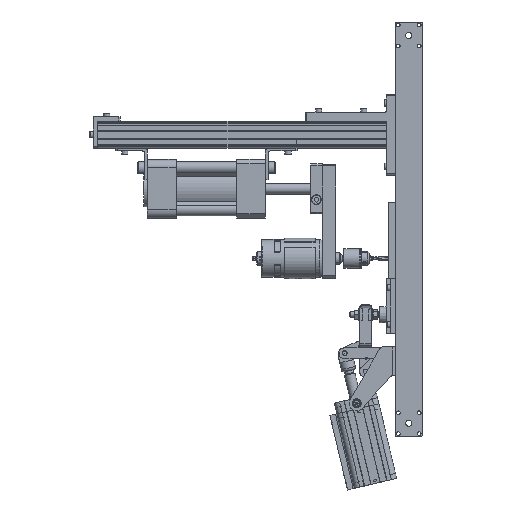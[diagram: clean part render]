
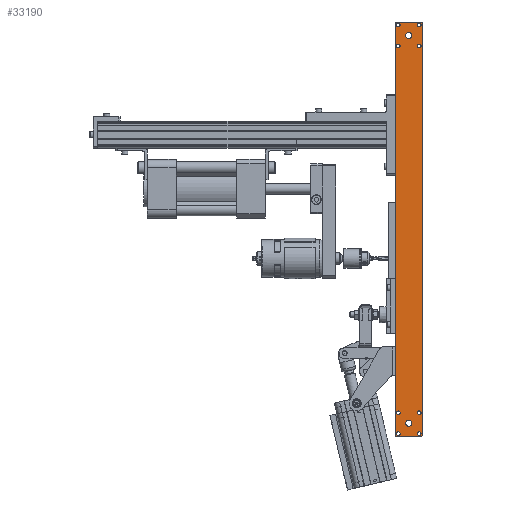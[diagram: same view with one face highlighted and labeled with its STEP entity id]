
A CAD part, left-side view. The second image highlights one B-rep face of the part: STEP entity #33190.
In plain terms, the highlighted planar face has unit normal (-1, 0, 0) as drawn and (0, 0, 1) by its records, which use the part's own axes.
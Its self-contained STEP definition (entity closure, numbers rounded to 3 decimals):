
#1741=FACE_BOUND('',#5719,.T.);
#1742=FACE_BOUND('',#5720,.T.);
#1743=FACE_BOUND('',#5721,.T.);
#1744=FACE_BOUND('',#5722,.T.);
#1745=FACE_BOUND('',#5723,.T.);
#1746=FACE_BOUND('',#5724,.T.);
#1747=FACE_BOUND('',#5725,.T.);
#1748=FACE_BOUND('',#5726,.T.);
#1749=FACE_BOUND('',#5727,.T.);
#1750=FACE_BOUND('',#5728,.T.);
#2178=CIRCLE('',#36076,2.);
#2193=CIRCLE('',#36094,2.);
#2194=CIRCLE('',#36096,2.);
#2195=CIRCLE('',#36099,2.);
#2196=CIRCLE('',#36101,2.);
#2197=CIRCLE('',#36103,2.);
#2198=CIRCLE('',#36105,3.4);
#2199=CIRCLE('',#36107,2.);
#2200=CIRCLE('',#36109,2.);
#2201=CIRCLE('',#36111,2.);
#2202=CIRCLE('',#36113,2.);
#2203=CIRCLE('',#36115,2.);
#2204=CIRCLE('',#36117,3.4);
#2205=CIRCLE('',#36119,2.);
#3788=FACE_OUTER_BOUND('',#5718,.T.);
#5718=EDGE_LOOP('',(#23239,#23240,#23241,#23242,#23243,#23244,#23245,#23246));
#5719=EDGE_LOOP('',(#23247));
#5720=EDGE_LOOP('',(#23248));
#5721=EDGE_LOOP('',(#23249));
#5722=EDGE_LOOP('',(#23250));
#5723=EDGE_LOOP('',(#23251));
#5724=EDGE_LOOP('',(#23252));
#5725=EDGE_LOOP('',(#23253));
#5726=EDGE_LOOP('',(#23254));
#5727=EDGE_LOOP('',(#23255));
#5728=EDGE_LOOP('',(#23256));
#8306=LINE('',#50582,#11349);
#8312=LINE('',#50597,#11355);
#8324=LINE('',#50643,#11367);
#8325=LINE('',#50645,#11368);
#11349=VECTOR('',#40468,10.);
#11355=VECTOR('',#40484,10.);
#11367=VECTOR('',#40542,10.);
#11368=VECTOR('',#40545,10.);
#14252=VERTEX_POINT('',#50538);
#14253=VERTEX_POINT('',#50539);
#14272=VERTEX_POINT('',#50581);
#14273=VERTEX_POINT('',#50585);
#14274=VERTEX_POINT('',#50589);
#14275=VERTEX_POINT('',#50590);
#14276=VERTEX_POINT('',#50595);
#14277=VERTEX_POINT('',#50599);
#14278=VERTEX_POINT('',#50603);
#14279=VERTEX_POINT('',#50607);
#14280=VERTEX_POINT('',#50611);
#14281=VERTEX_POINT('',#50615);
#14282=VERTEX_POINT('',#50619);
#14283=VERTEX_POINT('',#50623);
#14284=VERTEX_POINT('',#50627);
#14285=VERTEX_POINT('',#50631);
#14286=VERTEX_POINT('',#50635);
#14287=VERTEX_POINT('',#50639);
#17653=EDGE_CURVE('',#14252,#14253,#2178,.T.);
#17674=EDGE_CURVE('',#14272,#14253,#8306,.T.);
#17676=EDGE_CURVE('',#14272,#14273,#2193,.T.);
#17678=EDGE_CURVE('',#14274,#14275,#2194,.T.);
#17682=EDGE_CURVE('',#14274,#14276,#8312,.T.);
#17683=EDGE_CURVE('',#14277,#14276,#2195,.T.);
#17685=EDGE_CURVE('',#14278,#14278,#2196,.T.);
#17687=EDGE_CURVE('',#14279,#14279,#2197,.T.);
#17689=EDGE_CURVE('',#14280,#14280,#2198,.T.);
#17691=EDGE_CURVE('',#14281,#14281,#2199,.T.);
#17693=EDGE_CURVE('',#14282,#14282,#2200,.T.);
#17695=EDGE_CURVE('',#14283,#14283,#2201,.T.);
#17697=EDGE_CURVE('',#14284,#14284,#2202,.T.);
#17699=EDGE_CURVE('',#14285,#14285,#2203,.T.);
#17701=EDGE_CURVE('',#14286,#14286,#2204,.T.);
#17703=EDGE_CURVE('',#14287,#14287,#2205,.T.);
#17705=EDGE_CURVE('',#14277,#14273,#8324,.T.);
#17706=EDGE_CURVE('',#14252,#14275,#8325,.T.);
#23239=ORIENTED_EDGE('',*,*,#17653,.F.);
#23240=ORIENTED_EDGE('',*,*,#17706,.T.);
#23241=ORIENTED_EDGE('',*,*,#17678,.F.);
#23242=ORIENTED_EDGE('',*,*,#17682,.T.);
#23243=ORIENTED_EDGE('',*,*,#17683,.F.);
#23244=ORIENTED_EDGE('',*,*,#17705,.T.);
#23245=ORIENTED_EDGE('',*,*,#17676,.F.);
#23246=ORIENTED_EDGE('',*,*,#17674,.T.);
#23247=ORIENTED_EDGE('',*,*,#17685,.T.);
#23248=ORIENTED_EDGE('',*,*,#17687,.T.);
#23249=ORIENTED_EDGE('',*,*,#17689,.T.);
#23250=ORIENTED_EDGE('',*,*,#17691,.T.);
#23251=ORIENTED_EDGE('',*,*,#17693,.T.);
#23252=ORIENTED_EDGE('',*,*,#17695,.T.);
#23253=ORIENTED_EDGE('',*,*,#17697,.T.);
#23254=ORIENTED_EDGE('',*,*,#17699,.T.);
#23255=ORIENTED_EDGE('',*,*,#17701,.T.);
#23256=ORIENTED_EDGE('',*,*,#17703,.T.);
#31710=PLANE('',#36122);
#33190=ADVANCED_FACE('',(#3788,#1741,#1742,#1743,#1744,#1745,#1746,#1747,
#1748,#1749,#1750),#31710,.T.);
#36076=AXIS2_PLACEMENT_3D('',#50540,#40428,#40429);
#36094=AXIS2_PLACEMENT_3D('',#50586,#40472,#40473);
#36096=AXIS2_PLACEMENT_3D('',#50591,#40477,#40478);
#36099=AXIS2_PLACEMENT_3D('',#50600,#40487,#40488);
#36101=AXIS2_PLACEMENT_3D('',#50604,#40492,#40493);
#36103=AXIS2_PLACEMENT_3D('',#50608,#40497,#40498);
#36105=AXIS2_PLACEMENT_3D('',#50612,#40502,#40503);
#36107=AXIS2_PLACEMENT_3D('',#50616,#40507,#40508);
#36109=AXIS2_PLACEMENT_3D('',#50620,#40512,#40513);
#36111=AXIS2_PLACEMENT_3D('',#50624,#40517,#40518);
#36113=AXIS2_PLACEMENT_3D('',#50628,#40522,#40523);
#36115=AXIS2_PLACEMENT_3D('',#50632,#40527,#40528);
#36117=AXIS2_PLACEMENT_3D('',#50636,#40532,#40533);
#36119=AXIS2_PLACEMENT_3D('',#50640,#40537,#40538);
#36122=AXIS2_PLACEMENT_3D('',#50646,#40546,#40547);
#40428=DIRECTION('center_axis',(0.,0.,-1.));
#40429=DIRECTION('ref_axis',(-0.707,-0.707,0.));
#40468=DIRECTION('',(0.,-1.,0.));
#40472=DIRECTION('center_axis',(0.,0.,-1.));
#40473=DIRECTION('ref_axis',(-0.707,0.707,0.));
#40477=DIRECTION('center_axis',(0.,0.,-1.));
#40478=DIRECTION('ref_axis',(0.707,-0.707,0.));
#40484=DIRECTION('',(0.,1.,0.));
#40487=DIRECTION('center_axis',(0.,0.,-1.));
#40488=DIRECTION('ref_axis',(0.707,0.707,0.));
#40492=DIRECTION('center_axis',(0.,0.,-1.));
#40493=DIRECTION('ref_axis',(-1.,0.,0.));
#40497=DIRECTION('center_axis',(0.,0.,-1.));
#40498=DIRECTION('ref_axis',(-1.,0.,0.));
#40502=DIRECTION('center_axis',(0.,0.,-1.));
#40503=DIRECTION('ref_axis',(-1.,0.,0.));
#40507=DIRECTION('center_axis',(0.,0.,-1.));
#40508=DIRECTION('ref_axis',(-1.,0.,0.));
#40512=DIRECTION('center_axis',(0.,0.,-1.));
#40513=DIRECTION('ref_axis',(-1.,0.,0.));
#40517=DIRECTION('center_axis',(0.,0.,-1.));
#40518=DIRECTION('ref_axis',(1.,0.,0.));
#40522=DIRECTION('center_axis',(0.,0.,-1.));
#40523=DIRECTION('ref_axis',(1.,0.,0.));
#40527=DIRECTION('center_axis',(0.,0.,-1.));
#40528=DIRECTION('ref_axis',(1.,0.,0.));
#40532=DIRECTION('center_axis',(0.,0.,-1.));
#40533=DIRECTION('ref_axis',(1.,0.,0.));
#40537=DIRECTION('center_axis',(0.,0.,-1.));
#40538=DIRECTION('ref_axis',(1.,0.,0.));
#40542=DIRECTION('',(-1.,0.,0.));
#40545=DIRECTION('',(1.,0.,0.));
#40546=DIRECTION('center_axis',(0.,0.,1.));
#40547=DIRECTION('ref_axis',(1.,0.,0.));
#50538=CARTESIAN_POINT('',(-13.,-15.,5.));
#50539=CARTESIAN_POINT('',(-15.,-13.,5.));
#50540=CARTESIAN_POINT('Origin',(-13.,-13.,5.));
#50581=CARTESIAN_POINT('',(-15.,13.,5.));
#50582=CARTESIAN_POINT('',(-15.,15.,5.));
#50585=CARTESIAN_POINT('',(-13.,15.,5.));
#50586=CARTESIAN_POINT('Origin',(-13.,13.,5.));
#50589=CARTESIAN_POINT('',(445.,-13.,5.));
#50590=CARTESIAN_POINT('',(443.,-15.,5.));
#50591=CARTESIAN_POINT('Origin',(443.,-13.,5.));
#50595=CARTESIAN_POINT('',(445.,13.,5.));
#50597=CARTESIAN_POINT('',(445.,-15.,5.));
#50599=CARTESIAN_POINT('',(443.,15.,5.));
#50600=CARTESIAN_POINT('Origin',(443.,13.,5.));
#50603=CARTESIAN_POINT('',(443.625,11.625,5.));
#50604=CARTESIAN_POINT('Origin',(441.625,11.625,5.));
#50607=CARTESIAN_POINT('',(420.375,11.625,5.));
#50608=CARTESIAN_POINT('Origin',(418.375,11.625,5.));
#50611=CARTESIAN_POINT('',(433.4,0.,5.));
#50612=CARTESIAN_POINT('Origin',(430.,0.,5.));
#50615=CARTESIAN_POINT('',(443.625,-11.625,5.));
#50616=CARTESIAN_POINT('Origin',(441.625,-11.625,5.));
#50619=CARTESIAN_POINT('',(420.375,-11.625,5.));
#50620=CARTESIAN_POINT('Origin',(418.375,-11.625,5.));
#50623=CARTESIAN_POINT('',(-13.625,11.625,5.));
#50624=CARTESIAN_POINT('Origin',(-11.625,11.625,5.));
#50627=CARTESIAN_POINT('',(9.625,-11.625,5.));
#50628=CARTESIAN_POINT('Origin',(11.625,-11.625,5.));
#50631=CARTESIAN_POINT('',(-13.625,-11.625,5.));
#50632=CARTESIAN_POINT('Origin',(-11.625,-11.625,5.));
#50635=CARTESIAN_POINT('',(-3.4,0.,5.));
#50636=CARTESIAN_POINT('Origin',(0.,0.,
5.));
#50639=CARTESIAN_POINT('',(9.625,11.625,5.));
#50640=CARTESIAN_POINT('Origin',(11.625,11.625,5.));
#50643=CARTESIAN_POINT('',(445.,15.,5.));
#50645=CARTESIAN_POINT('',(-15.,-15.,5.));
#50646=CARTESIAN_POINT('Origin',(215.,0.,
5.));
